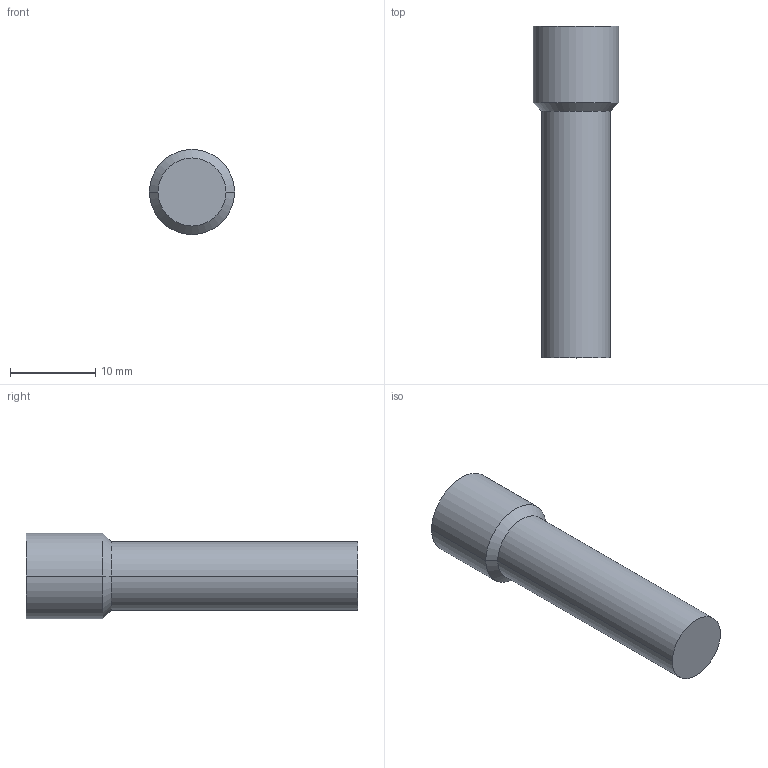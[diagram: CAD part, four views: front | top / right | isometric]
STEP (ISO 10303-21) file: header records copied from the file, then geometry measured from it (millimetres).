
FILE_DESCRIPTION( ( '' ), '1' );
FILE_NAME( 'G:/SMC狟婥/KPP-08.stp', '2023-03-08T05:54:10', ( '' ), ( '' ), ' ', ' ', ' ' );
FILE_SCHEMA( ( 'CONFIG_CONTROL_DESIGN' ) );
Length unit declared in the file: millimetre
Products named in the file (1): 1
Bounding box: 10 x 39 x 10 mm (x, y, z)
Volume: 2228.4 mm3; surface area: 1180.4 mm2
Topology: 1 solids, 1 shells, 8 faces, 14 edges, 8 vertices
Faces by surface type: cylinder 4, cone 2, plane 2
Entity records: 238 total; most frequent: DIRECTION 40, CARTESIAN_POINT 31, ORIENTED_EDGE 28, AXIS2_PLACEMENT_3D 17, EDGE_CURVE 14, ADVANCED_FACE 8, FACE_OUTER_BOUND 8, EDGE_LOOP 8
